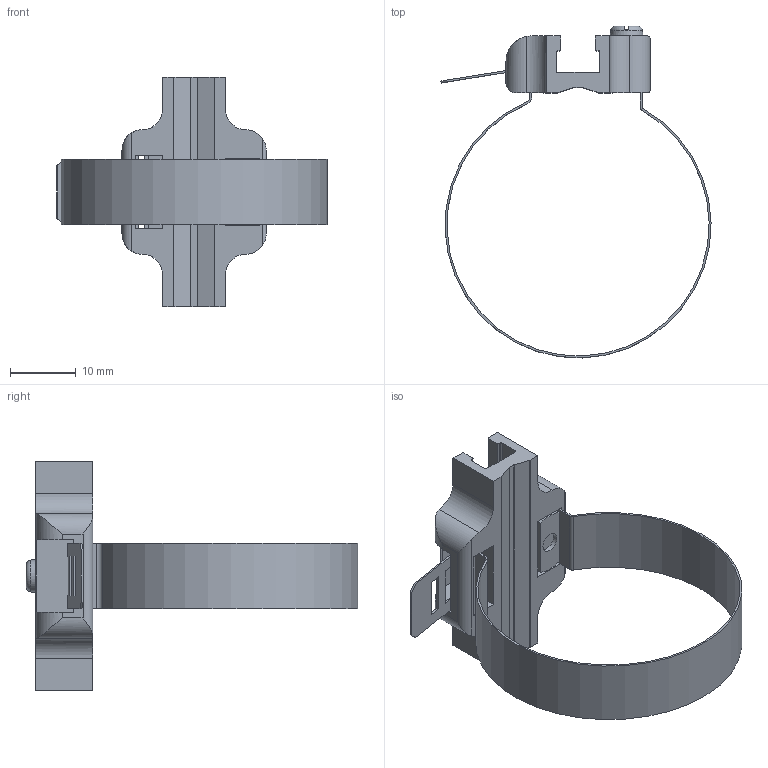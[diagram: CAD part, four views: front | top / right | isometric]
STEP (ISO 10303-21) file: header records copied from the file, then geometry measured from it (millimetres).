
FILE_DESCRIPTION( ( 'STEP AP214' ), ' ' );
FILE_NAME( 'p:/temp/worker_13/3124_3600/app_46_02017120213012738945919192d056f_000000_00_00_000000/format_0/SICK BEF-KHZ-RT1-130-1-Bestell-Nr.2077684 (40).stp', '2017-12-02T12:01:27', ( '' ), ( '' ), ' ', 'PARTsolutions', ' ' );
FILE_SCHEMA( ( 'AUTOMOTIVE_DESIGN { 1 0 10303 214 1 1 1 1 }' ) );
Length unit declared in the file: millimetre
Products named in the file (1): _SICK BEF-KHZ-RT1-130-1-Bestell-Nr.2077684 (40)
Bounding box: 41.22 x 50.64 x 35 mm (x, y, z)
Volume: 3252.3 mm3; surface area: 5721.2 mm2
Topology: 1 solids, 1 shells, 128 faces, 363 edges, 240 vertices
Faces by surface type: plane 77, cylinder 49, cone 1, torus 1
Full cylindrical faces by diameter (mm): 3 x2, 3.2 x1
Entity records: 5266 total; most frequent: CARTESIAN_POINT 847, ORIENTED_EDGE 712, DIRECTION 698, EDGE_CURVE 356, LINE 244, VECTOR 244, VERTEX_POINT 238, AXIS2_PLACEMENT_3D 227
